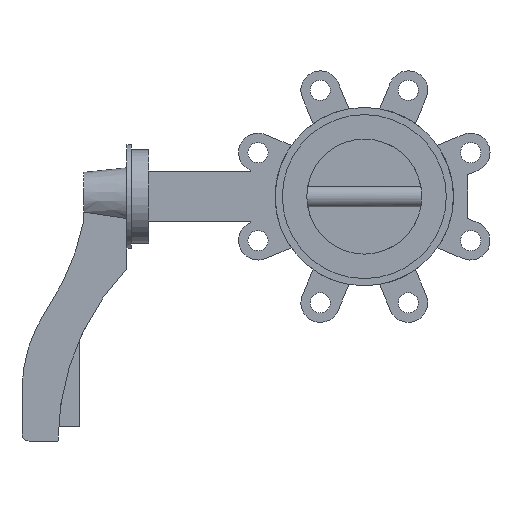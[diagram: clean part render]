
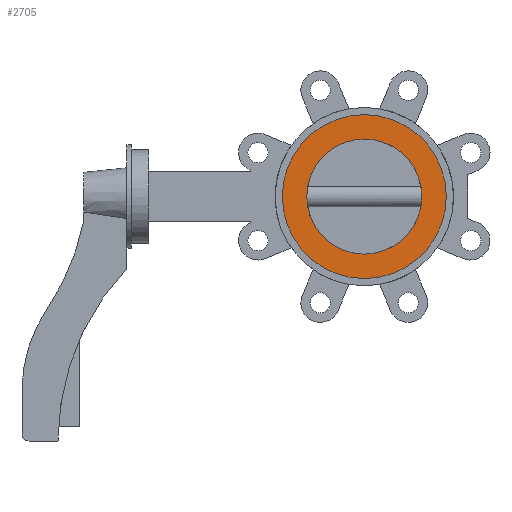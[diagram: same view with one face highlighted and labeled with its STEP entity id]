
A CAD part, left-side view. The second image highlights one B-rep face of the part: STEP entity #2705.
In plain terms, the highlighted planar face has unit normal (-1, 0, 0).
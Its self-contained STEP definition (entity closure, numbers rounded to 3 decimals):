
#61 = VERTEX_POINT ( 'NONE', #3323 ) ;
#214 = AXIS2_PLACEMENT_3D ( 'NONE', #3979, #2798, #4454 ) ;
#239 = CARTESIAN_POINT ( 'NONE',  ( -25.5, 0., 40. ) ) ;
#586 = VERTEX_POINT ( 'NONE', #1545 ) ;
#723 = CIRCLE ( 'NONE', #1419, 40. ) ;
#935 = EDGE_CURVE ( 'NONE', #2762, #3570, #723, .T. ) ;
#1020 = CARTESIAN_POINT ( 'NONE',  ( -25.5, 0., 0. ) ) ;
#1041 = DIRECTION ( 'NONE',  ( 1., 0., 0. ) ) ;
#1287 = FACE_OUTER_BOUND ( 'NONE', #3285, .T. ) ;
#1419 = AXIS2_PLACEMENT_3D ( 'NONE', #1539, #2438, #3762 ) ;
#1539 = CARTESIAN_POINT ( 'NONE',  ( -25.5, 0., 0. ) ) ;
#1545 = CARTESIAN_POINT ( 'NONE',  ( -25.5, 0., -57. ) ) ;
#1585 = AXIS2_PLACEMENT_3D ( 'NONE', #1020, #4862, #1922 ) ;
#1678 = PLANE ( 'NONE',  #4239 ) ;
#1892 = CIRCLE ( 'NONE', #214, 57. ) ;
#1898 = CARTESIAN_POINT ( 'NONE',  ( -25.5, 0., 0. ) ) ;
#1922 = DIRECTION ( 'NONE',  ( 0., 0., -1. ) ) ;
#1925 = EDGE_LOOP ( 'NONE', ( #5016, #2698 ) ) ;
#2102 = DIRECTION ( 'NONE',  ( 0., 0., -1. ) ) ;
#2438 = DIRECTION ( 'NONE',  ( 1., 0., 0. ) ) ;
#2519 = FACE_BOUND ( 'NONE', #1925, .T. ) ;
#2698 = ORIENTED_EDGE ( 'NONE', *, *, #935, .T. ) ;
#2705 = ADVANCED_FACE ( 'NONE', ( #1287, #2519 ), #1678, .F. ) ;
#2762 = VERTEX_POINT ( 'NONE', #3780 ) ;
#2798 = DIRECTION ( 'NONE',  ( 1., 0., 0. ) ) ;
#2908 = CIRCLE ( 'NONE', #1585, 40. ) ;
#2916 = DIRECTION ( 'NONE',  ( 1., 0., 0. ) ) ;
#2995 = AXIS2_PLACEMENT_3D ( 'NONE', #1898, #1041, #3580 ) ;
#3285 = EDGE_LOOP ( 'NONE', ( #4145, #3880 ) ) ;
#3323 = CARTESIAN_POINT ( 'NONE',  ( -25.5, 0., 57. ) ) ;
#3495 = EDGE_CURVE ( 'NONE', #3570, #2762, #2908, .T. ) ;
#3570 = VERTEX_POINT ( 'NONE', #239 ) ;
#3580 = DIRECTION ( 'NONE',  ( 0., 0., -1. ) ) ;
#3587 = EDGE_CURVE ( 'NONE', #586, #61, #4339, .T. ) ;
#3762 = DIRECTION ( 'NONE',  ( 0., 0., -1. ) ) ;
#3780 = CARTESIAN_POINT ( 'NONE',  ( -25.5, 0., -40. ) ) ;
#3880 = ORIENTED_EDGE ( 'NONE', *, *, #3587, .F. ) ;
#3979 = CARTESIAN_POINT ( 'NONE',  ( -25.5, 0., 0. ) ) ;
#4145 = ORIENTED_EDGE ( 'NONE', *, *, #5028, .F. ) ;
#4239 = AXIS2_PLACEMENT_3D ( 'NONE', #4250, #2916, #2102 ) ;
#4250 = CARTESIAN_POINT ( 'NONE',  ( -25.5, 0., 0. ) ) ;
#4339 = CIRCLE ( 'NONE', #2995, 57. ) ;
#4454 = DIRECTION ( 'NONE',  ( 0., 0., -1. ) ) ;
#4862 = DIRECTION ( 'NONE',  ( 1., 0., 0. ) ) ;
#5016 = ORIENTED_EDGE ( 'NONE', *, *, #3495, .T. ) ;
#5028 = EDGE_CURVE ( 'NONE', #61, #586, #1892, .T. ) ;
